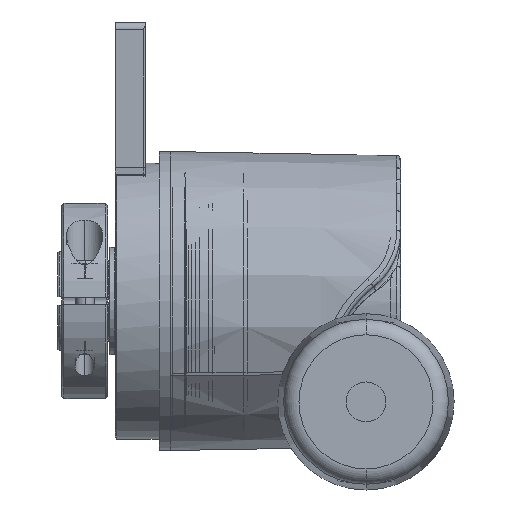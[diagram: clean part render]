
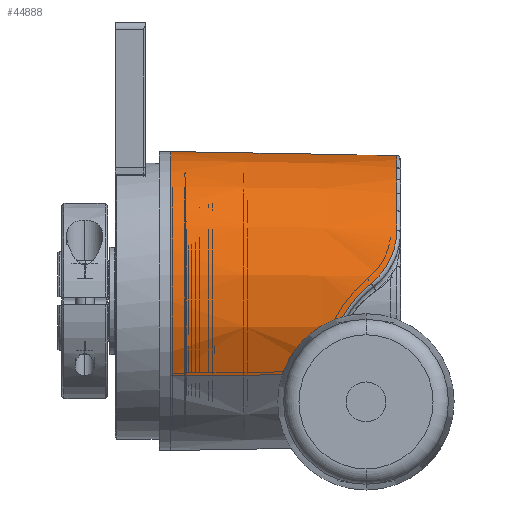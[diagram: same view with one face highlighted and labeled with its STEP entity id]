
A CAD part, front view. The second image highlights one B-rep face of the part: STEP entity #44888.
In plain terms, the highlighted conical face has half-angle 1 degrees and reference radius 18.976 mm.
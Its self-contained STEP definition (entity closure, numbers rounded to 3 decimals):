
#21217 = CARTESIAN_POINT ( 'NONE',  ( 32.709, -16.577, -9.571 ) ) ;
#21218 = DIRECTION ( 'NONE',  ( -1., -0.015, -0.009 ) ) ;
#21219 = VECTOR ( 'NONE', #21218, 1000. ) ;
#21221 = CARTESIAN_POINT ( 'NONE',  ( 42.2, -16.434, -9.488 ) ) ;
#21223 = LINE ( 'NONE', #21221, #21219 ) ;
#21227 = CARTESIAN_POINT ( 'NONE',  ( 12.2, 16.887, 9.75 ) ) ;
#21238 = CARTESIAN_POINT ( 'NONE',  ( 38.383, -18.902, 2.317 ) ) ;
#21241 = DIRECTION ( 'NONE',  ( 0., -0.866, -0.5 ) ) ;
#21243 = DIRECTION ( 'NONE',  ( -1., 0., 0. ) ) ;
#21246 = CARTESIAN_POINT ( 'NONE',  ( 32.709, 0., 0. ) ) ;
#21248 = AXIS2_PLACEMENT_3D ( 'NONE', #21246, #21243, #21241 ) ;
#21250 = CIRCLE ( 'NONE', #21248, 19.142 ) ;
#21281 = DIRECTION ( 'NONE',  ( 0., -0.866, -0.5 ) ) ;
#21284 = DIRECTION ( 'NONE',  ( -1., 0., 0. ) ) ;
#21285 = CARTESIAN_POINT ( 'NONE',  ( 12.2, 0., 0. ) ) ;
#21287 = AXIS2_PLACEMENT_3D ( 'NONE', #21285, #21284, #21281 ) ;
#21289 = CIRCLE ( 'NONE', #21287, 19.5 ) ;
#21303 = CARTESIAN_POINT ( 'NONE',  ( 32.709, -16.62, -9.496 ) ) ;
#21366 = CARTESIAN_POINT ( 'NONE',  ( 41.709, 16.441, 9.492 ) ) ;
#21572 = CARTESIAN_POINT ( 'NONE',  ( 41.709, -16.583, 9.243 ) ) ;
#21574 = CARTESIAN_POINT ( 'NONE',  ( 41.709, -16.924, 8.631 ) ) ;
#21576 = CARTESIAN_POINT ( 'NONE',  ( 41.647, -17.227, 8.011 ) ) ;
#21578 = CARTESIAN_POINT ( 'NONE',  ( 41.447, -17.627, 7.071 ) ) ;
#21579 = CARTESIAN_POINT ( 'NONE',  ( 41.363, -17.752, 6.755 ) ) ;
#21580 = CARTESIAN_POINT ( 'NONE',  ( 41.155, -17.982, 6.127 ) ) ;
#21581 = CARTESIAN_POINT ( 'NONE',  ( 41.034, -18.086, 5.819 ) ) ;
#21582 = CARTESIAN_POINT ( 'NONE',  ( 40.757, -18.275, 5.215 ) ) ;
#21583 = CARTESIAN_POINT ( 'NONE',  ( 40.6, -18.359, 4.918 ) ) ;
#21584 = CARTESIAN_POINT ( 'NONE',  ( 40.249, -18.511, 4.34 ) ) ;
#21585 = CARTESIAN_POINT ( 'NONE',  ( 40.053, -18.578, 4.055 ) ) ;
#21586 = CARTESIAN_POINT ( 'NONE',  ( 39.417, -18.755, 3.24 ) ) ;
#21588 = CARTESIAN_POINT ( 'NONE',  ( 38.932, -18.839, 2.75 ) ) ;
#21589 = CARTESIAN_POINT ( 'NONE',  ( 38.383, -18.902, 2.317 ) ) ;
#21598 = B_SPLINE_CURVE_WITH_KNOTS ( 'NONE', 3,
 ( #21661, #21660, #21659, #21658, #21657, #21656, #21655, #21654, #21653, #21652, #21651, #21650, #21649, #21648, #21647, #21646, #21644, #21642 ),
 .UNSPECIFIED., .F., .F.,
 ( 4, 2, 2, 2, 2, 2, 2, 2, 4 ),
 ( 0., 0.003, 0.005, 0.007, 0.008, 0.009, 0.01, 0.012, 0.014 ),
 .UNSPECIFIED. ) ;
#21603 = B_SPLINE_CURVE_WITH_KNOTS ( 'NONE', 3,
 ( #21589, #21588, #21586, #21585, #21584, #21583, #21582, #21581, #21580, #21579, #21578, #21576, #21574, #21572 ),
 .UNSPECIFIED., .F., .F.,
 ( 4, 2, 2, 2, 2, 2, 4 ),
 ( 0., 0.002, 0.003, 0.004, 0.005, 0.006, 0.008 ),
 .UNSPECIFIED. ) ;
#21616 = CARTESIAN_POINT ( 'NONE',  ( 12.2, -16.887, -9.75 ) ) ;
#21642 = CARTESIAN_POINT ( 'NONE',  ( 38.383, -18.902, 2.317 ) ) ;
#21644 = CARTESIAN_POINT ( 'NONE',  ( 37.923, -18.954, 1.955 ) ) ;
#21646 = CARTESIAN_POINT ( 'NONE',  ( 37.485, -18.999, 1.565 ) ) ;
#21647 = CARTESIAN_POINT ( 'NONE',  ( 36.66, -19.063, 0.736 ) ) ;
#21648 = CARTESIAN_POINT ( 'NONE',  ( 36.275, -19.083, 0.3 ) ) ;
#21649 = CARTESIAN_POINT ( 'NONE',  ( 35.558, -19.088, -0.614 ) ) ;
#21650 = CARTESIAN_POINT ( 'NONE',  ( 35.226, -19.073, -1.092 ) ) ;
#21651 = CARTESIAN_POINT ( 'NONE',  ( 34.77, -19.019, -1.84 ) ) ;
#21652 = CARTESIAN_POINT ( 'NONE',  ( 34.624, -18.995, -2.095 ) ) ;
#21653 = CARTESIAN_POINT ( 'NONE',  ( 34.351, -18.936, -2.608 ) ) ;
#21654 = CARTESIAN_POINT ( 'NONE',  ( 34.223, -18.901, -2.866 ) ) ;
#21655 = CARTESIAN_POINT ( 'NONE',  ( 33.862, -18.778, -3.649 ) ) ;
#21656 = CARTESIAN_POINT ( 'NONE',  ( 33.654, -18.672, -4.179 ) ) ;
#21657 = CARTESIAN_POINT ( 'NONE',  ( 33.299, -18.405, -5.253 ) ) ;
#21658 = CARTESIAN_POINT ( 'NONE',  ( 33.152, -18.242, -5.802 ) ) ;
#21659 = CARTESIAN_POINT ( 'NONE',  ( 32.81, -17.679, -7.423 ) ) ;
#21660 = CARTESIAN_POINT ( 'NONE',  ( 32.709, -17.203, -8.476 ) ) ;
#21661 = CARTESIAN_POINT ( 'NONE',  ( 32.709, -16.62, -9.496 ) ) ;
#21824 = DIRECTION ( 'NONE',  ( -1., 0.015, 0.009 ) ) ;
#21825 = VECTOR ( 'NONE', #21824, 1000. ) ;
#21826 = CARTESIAN_POINT ( 'NONE',  ( 42.2, 16.434, 9.488 ) ) ;
#21827 = LINE ( 'NONE', #21826, #21825 ) ;
#21968 = CONICAL_SURFACE ( 'NONE', #22128, 18.976, 0.017 ) ;
#22020 = FACE_OUTER_BOUND ( 'NONE', #44889, .T. ) ;
#22114 = DIRECTION ( 'NONE',  ( 0., 0.866, 0.5 ) ) ;
#22115 = DIRECTION ( 'NONE',  ( -1., 0., 0. ) ) ;
#22117 = CARTESIAN_POINT ( 'NONE',  ( 41.709, 0., 0. ) ) ;
#22118 = AXIS2_PLACEMENT_3D ( 'NONE', #22117, #22115, #22114 ) ;
#22119 = CARTESIAN_POINT ( 'NONE',  ( 41.709, -16.583, 9.243 ) ) ;
#22124 = DIRECTION ( 'NONE',  ( 0., -0.866, -0.5 ) ) ;
#22126 = DIRECTION ( 'NONE',  ( -1., 0., 0. ) ) ;
#22127 = CARTESIAN_POINT ( 'NONE',  ( 42.2, 0., 0. ) ) ;
#22128 = AXIS2_PLACEMENT_3D ( 'NONE', #22127, #22126, #22124 ) ;
#22130 = CIRCLE ( 'NONE', #22118, 18.985 ) ;
#44753 = ORIENTED_EDGE ( 'NONE', *, *, #44777, .F. ) ;
#44759 = ORIENTED_EDGE ( 'NONE', *, *, #44760, .T. ) ;
#44760 = EDGE_CURVE ( 'NONE', #44771, #44775, #21250, .T. ) ;
#44761 = VERTEX_POINT ( 'NONE', #21238 ) ;
#44768 = VERTEX_POINT ( 'NONE', #21227 ) ;
#44769 = ORIENTED_EDGE ( 'NONE', *, *, #44770, .F. ) ;
#44770 = EDGE_CURVE ( 'NONE', #44771, #44827, #21223, .T. ) ;
#44771 = VERTEX_POINT ( 'NONE', #21217 ) ;
#44775 = VERTEX_POINT ( 'NONE', #21303 ) ;
#44777 = EDGE_CURVE ( 'NONE', #44827, #44768, #21289, .T. ) ;
#44786 = VERTEX_POINT ( 'NONE', #21366 ) ;
#44827 = VERTEX_POINT ( 'NONE', #21616 ) ;
#44828 = ORIENTED_EDGE ( 'NONE', *, *, #44832, .T. ) ;
#44830 = EDGE_CURVE ( 'NONE', #44761, #44893, #21603, .T. ) ;
#44832 = EDGE_CURVE ( 'NONE', #44775, #44761, #21598, .T. ) ;
#44858 = EDGE_CURVE ( 'NONE', #44786, #44768, #21827, .T. ) ;
#44881 = ORIENTED_EDGE ( 'NONE', *, *, #44858, .T. ) ;
#44888 = ADVANCED_FACE ( 'NONE', ( #22020 ), #21968, .T. ) ;
#44889 = EDGE_LOOP ( 'NONE', ( #44891, #44881, #44753, #44769, #44759, #44828, #44934 ) ) ;
#44891 = ORIENTED_EDGE ( 'NONE', *, *, #44892, .T. ) ;
#44892 = EDGE_CURVE ( 'NONE', #44893, #44786, #22130, .T. ) ;
#44893 = VERTEX_POINT ( 'NONE', #22119 ) ;
#44934 = ORIENTED_EDGE ( 'NONE', *, *, #44830, .T. ) ;
